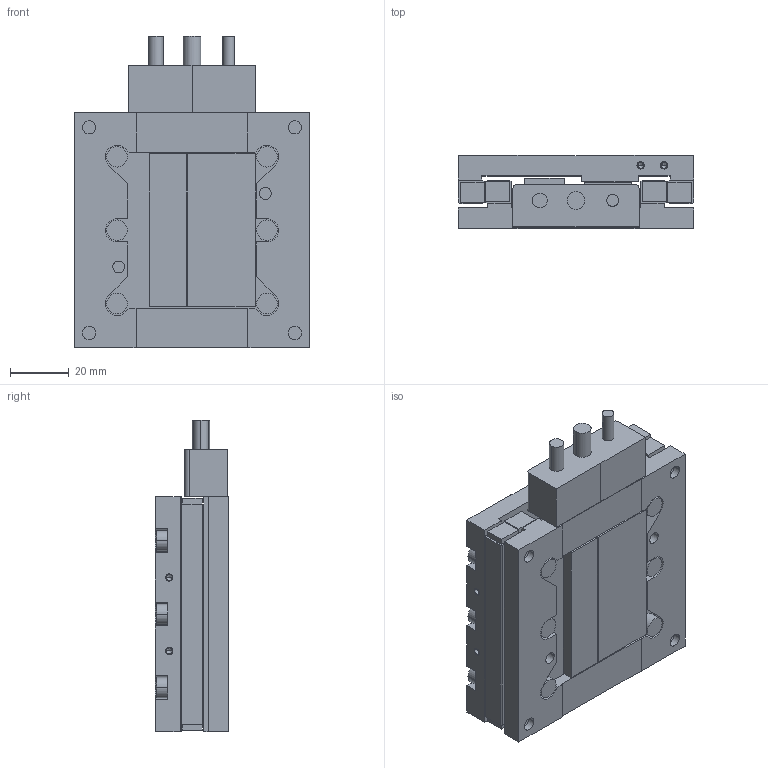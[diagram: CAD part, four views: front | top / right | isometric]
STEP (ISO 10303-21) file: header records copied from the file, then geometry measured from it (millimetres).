
FILE_DESCRIPTION((''),'2;1');
FILE_NAME('MX80L-T01_ASM','2008-04-11T',('bf20108'),(''),'PRO/ENGINEER BY PARAMETRIC TECHNOLOGY CORPORATION, 2004400','PRO/ENGINEER BY PARAMETRIC TECHNOLOGY CORPORATION, 2004400','');
FILE_SCHEMA(('CONFIG_CONTROL_DESIGN'));
Length unit declared in the file: millimetre
Products named in the file (4): MX80L-BASE-25-50MM; MX80L-TOP-25-50MM; CABLE-ASSEMBLY-MX80L; MX80L-T01_ASM
Assembly tree (3 placements, depth 2):
  MX80L-T01_ASM
    MX80L-BASE-25-50MM
    MX80L-TOP-25-50MM
    CABLE-ASSEMBLY-MX80L
Bounding box: 80 x 25 x 106 mm (x, y, z)
Volume: 127598.6 mm3; surface area: 51022.1 mm2
Topology: 3 solids, 23 shells, 435 faces, 1129 edges, 721 vertices
Faces by surface type: plane 245, cylinder 152, cone 38
Entity records: 13241 total; most frequent: DIRECTION 2335, CARTESIAN_POINT 2296, ORIENTED_EDGE 2126, EDGE_CURVE 1103, AXIS2_PLACEMENT_3D 790, VECTOR 755, LINE 755, VERTEX_POINT 721
